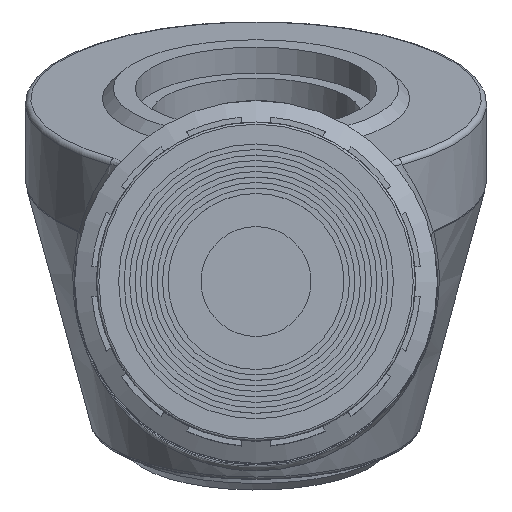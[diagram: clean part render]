
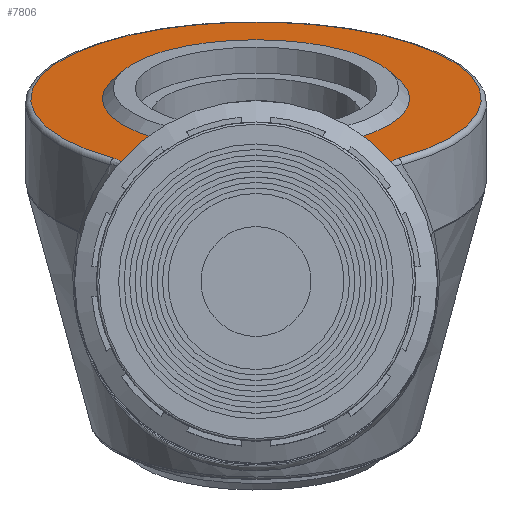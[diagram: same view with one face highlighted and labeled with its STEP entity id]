
A CAD part, top view. The second image highlights one B-rep face of the part: STEP entity #7806.
In plain terms, the highlighted planar face has unit normal (0, 0.94, 0.342).
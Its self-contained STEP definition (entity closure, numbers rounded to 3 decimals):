
#50=ELLIPSE('',#8352,46.781,16.);
#53=ELLIPSE('',#8360,46.781,16.);
#87=B_SPLINE_CURVE_WITH_KNOTS('',3,(#12090,#12091,#12092,#12093,#12094),
 .UNSPECIFIED.,.F.,.F.,(4,1,4),(0.,0.094,0.219),
 .UNSPECIFIED.);
#90=B_SPLINE_CURVE_WITH_KNOTS('',3,(#12164,#12165,#12166,#12167,#12168),
 .UNSPECIFIED.,.F.,.F.,(4,1,4),(0.,0.094,0.219),
 .UNSPECIFIED.);
#361=FACE_BOUND('',#1519,.T.);
#531=CIRCLE('',#8357,20.5);
#533=CIRCLE('',#8364,14.);
#1068=FACE_OUTER_BOUND('',#1518,.T.);
#1518=EDGE_LOOP('',(#5114,#5115,#5116,#5117,#5118,#5119));
#1519=EDGE_LOOP('',(#5120));
#2057=LINE('',#12501,#2508);
#2508=VECTOR('',#9501,10.);
#3019=VERTEX_POINT('',#12079);
#3022=VERTEX_POINT('',#12088);
#3024=VERTEX_POINT('',#12112);
#3025=VERTEX_POINT('',#12126);
#3027=VERTEX_POINT('',#12156);
#3029=VERTEX_POINT('',#12185);
#3035=VERTEX_POINT('',#12502);
#3843=EDGE_CURVE('',#3022,#3019,#87,.T.);
#3845=EDGE_CURVE('',#3024,#3022,#50,.T.);
#3849=EDGE_CURVE('',#3019,#3025,#531,.T.);
#3852=EDGE_CURVE('',#3025,#3027,#90,.T.);
#3855=EDGE_CURVE('',#3027,#3029,#53,.T.);
#3864=EDGE_CURVE('',#3029,#3024,#2057,.T.);
#3865=EDGE_CURVE('',#3035,#3035,#533,.T.);
#5114=ORIENTED_EDGE('',*,*,#3855,.F.);
#5115=ORIENTED_EDGE('',*,*,#3852,.F.);
#5116=ORIENTED_EDGE('',*,*,#3849,.F.);
#5117=ORIENTED_EDGE('',*,*,#3843,.F.);
#5118=ORIENTED_EDGE('',*,*,#3845,.F.);
#5119=ORIENTED_EDGE('',*,*,#3864,.F.);
#5120=ORIENTED_EDGE('',*,*,#3865,.F.);
#7095=PLANE('',#8363);
#7806=ADVANCED_FACE('',(#1068,#361),#7095,.T.);
#8352=AXIS2_PLACEMENT_3D('',#12123,#9474,#9475);
#8357=AXIS2_PLACEMENT_3D('',#12130,#9484,#9485);
#8360=AXIS2_PLACEMENT_3D('',#12198,#9490,#9491);
#8363=AXIS2_PLACEMENT_3D('',#12500,#9499,#9500);
#8364=AXIS2_PLACEMENT_3D('',#12503,#9502,#9503);
#9474=DIRECTION('center_axis',(0.,-0.94,
-0.342));
#9475=DIRECTION('ref_axis',(0.,0.342,-0.94));
#9484=DIRECTION('center_axis',(0.,-0.94,
-0.342));
#9485=DIRECTION('ref_axis',(0.,0.342,-0.94));
#9490=DIRECTION('center_axis',(0.,-0.94,
-0.342));
#9491=DIRECTION('ref_axis',(0.,0.342,-0.94));
#9499=DIRECTION('center_axis',(0.,0.94,0.342));
#9500=DIRECTION('ref_axis',(0.,-0.342,0.94));
#9501=DIRECTION('',(-1.,0.,0.));
#9502=DIRECTION('center_axis',(0.,0.94,0.342));
#9503=DIRECTION('ref_axis',(-1.,0.,0.));
#12079=CARTESIAN_POINT('',(-23.791,22.092,21.079));
#12088=CARTESIAN_POINT('',(-23.029,21.429,22.903));
#12090=CARTESIAN_POINT('Ctrl Pts',(-23.029,21.429,22.903));
#12091=CARTESIAN_POINT('Ctrl Pts',(-22.942,21.531,22.62));
#12092=CARTESIAN_POINT('Ctrl Pts',(-23.011,21.793,21.9));
#12093=CARTESIAN_POINT('Ctrl Pts',(-23.467,22.002,21.327));
#12094=CARTESIAN_POINT('Ctrl Pts',(-23.791,22.092,21.079));
#12112=CARTESIAN_POINT('',(-23.966,20.21,26.251));
#12123=CARTESIAN_POINT('Origin',(-10.827,11.079,51.338));
#12126=CARTESIAN_POINT('',(2.137,22.092,21.079));
#12130=CARTESIAN_POINT('Origin',(-10.827,27.524,6.156));
#12156=CARTESIAN_POINT('',(1.375,21.429,22.903));
#12164=CARTESIAN_POINT('Ctrl Pts',(2.137,22.092,21.079));
#12165=CARTESIAN_POINT('Ctrl Pts',(1.894,22.025,21.265));
#12166=CARTESIAN_POINT('Ctrl Pts',(1.412,21.829,21.804));
#12167=CARTESIAN_POINT('Ctrl Pts',(1.259,21.566,22.526));
#12168=CARTESIAN_POINT('Ctrl Pts',(1.375,21.429,22.903));
#12185=CARTESIAN_POINT('',(2.312,20.21,26.251));
#12198=CARTESIAN_POINT('Origin',(-10.827,11.079,51.338));
#12500=CARTESIAN_POINT('Origin',(-10.827,26.954,7.723));
#12501=CARTESIAN_POINT('',(-10.827,20.21,26.251));
#12502=CARTESIAN_POINT('',(3.173,27.524,6.156));
#12503=CARTESIAN_POINT('Origin',(-10.827,27.524,6.156));
